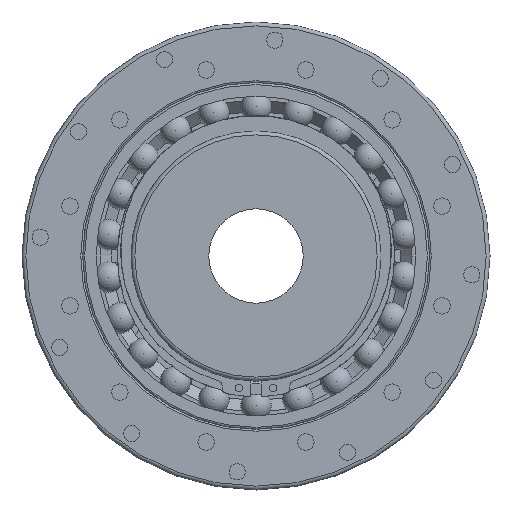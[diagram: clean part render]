
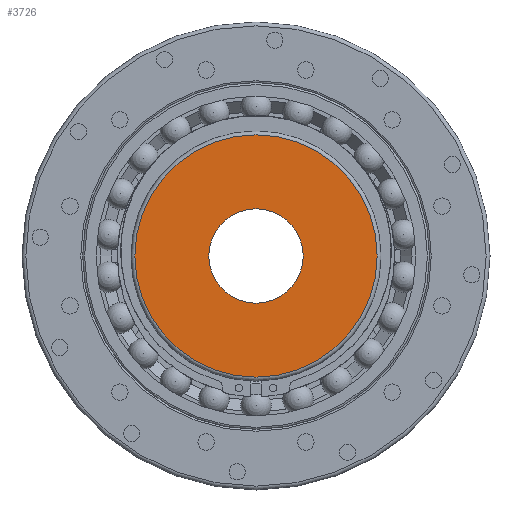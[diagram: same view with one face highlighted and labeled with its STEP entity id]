
A CAD part, left-side view. The second image highlights one B-rep face of the part: STEP entity #3726.
In plain terms, the highlighted planar face has unit normal (-1, 0, 0).
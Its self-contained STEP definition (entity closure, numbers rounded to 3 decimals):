
#444=CIRCLE('',#4284,24.5);
#509=CIRCLE('',#4460,62.9);
#1244=ORIENTED_EDGE('',*,*,#1602,.F.);
#1245=ORIENTED_EDGE('',*,*,#1731,.T.);
#1602=EDGE_CURVE('',#1972,#1972,#444,.T.);
#1731=EDGE_CURVE('',#2075,#2075,#509,.T.);
#1972=VERTEX_POINT('',#6511);
#2075=VERTEX_POINT('',#7006);
#2800=EDGE_LOOP('',(#1244));
#2801=EDGE_LOOP('',(#1245));
#3278=FACE_BOUND('',#2800,.T.);
#3279=FACE_BOUND('',#2801,.T.);
#3466=PLANE('',#4461);
#3726=ADVANCED_FACE('',(#3278,#3279),#3466,.F.);
#4284=AXIS2_PLACEMENT_3D('',#6510,#5210,#5211);
#4460=AXIS2_PLACEMENT_3D('',#7005,#5615,#5616);
#4461=AXIS2_PLACEMENT_3D('',#7007,#5617,#5618);
#5210=DIRECTION('',(-1.,0.,0.));
#5211=DIRECTION('',(0.,0.,1.));
#5615=DIRECTION('',(-1.,0.,0.));
#5616=DIRECTION('',(0.,0.,1.));
#5617=DIRECTION('',(1.,0.,0.));
#5618=DIRECTION('',(0.,0.,-1.));
#6510=CARTESIAN_POINT('',(-13.35,0.,0.));
#6511=CARTESIAN_POINT('',(-13.35,0.,24.5));
#7005=CARTESIAN_POINT('',(-13.35,0.,0.));
#7006=CARTESIAN_POINT('',(-13.35,0.,62.9));
#7007=CARTESIAN_POINT('',(-13.35,0.,64.9));
